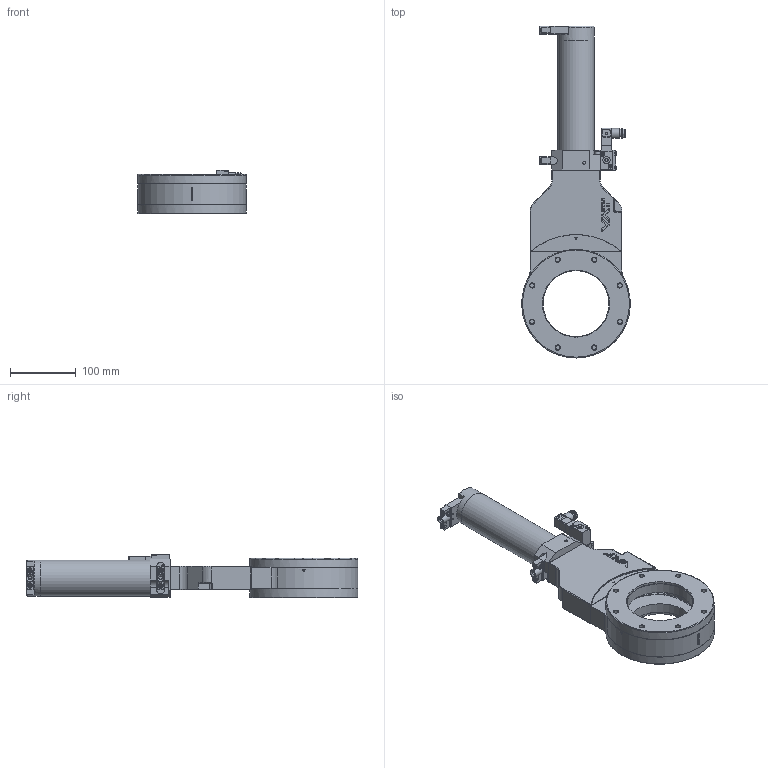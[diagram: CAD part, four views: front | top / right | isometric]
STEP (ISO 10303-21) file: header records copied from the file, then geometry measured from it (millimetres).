
FILE_DESCRIPTION( ( 'Unknown' ), '1' );
FILE_NAME( 'X:/Daten ( aktueller Bestand )/Projekte und Zeichnungen/Solid Edge/STP-Dateien/Schieberventile ISO-F/814444.stp', 'Unknown', ( 'Unknown' ), ( 'Unknown' ), 'PSStep 14.0', 'Unknown', ' ' );
FILE_SCHEMA( ( 'AUTOMOTIVE_DESIGN { 1 0 10303 214 1 1 1 1 }' ) );
Length unit declared in the file: millimetre
Products named in the file (49): N-8406-013_1_1.4_NX-ARRAGMNTZUSAMMENST1_4; N-8406-013_2.1_4; 202839_1.2_4; N-8406-013_3.2_4; N-7557-016_3.1_MODELNX-ARRAGMNTArrangement 1_4; 437235_4; 467882_4; 78856-R1.3_4; N-6099-417.1_4; N-6121-039.1_4; 73662-01.1_4; 87090-R1.22_NX-ARRAGMNTbetaetigt Hub 5mm max (mit Feder)_4; 87105-01.1_4; 93115-01.1_4; N-6195-007.2_5; 80478-01.1_4; N-7100-005_2.1_5; 80477-01.1_4; 92838-01_3.2_4; 251092.4_4; 251093.3_4; N-6121-027.2_4; 87090-R1.22_NX-ARRAGMNTunbetaetigt Hub 0mm (mit Feder)_1; 92838-01_4.2_1; 78855-R1.9_NX-ARRAGMNTEXPLOSION_1; N-6016-478.2_4; T-9001-055.1_4; 77379-01.1_4; 94800-r1.7_NX-ARRAGMNTKONFIG1_4; N-5018-005.1_4; N-6024-524.1_4; N-7557-016_2.1_4; N-7557-018.1_4; N-7557-016_1.1_4; Assem1; N-6005-466.1_1; N-6005-459.1_1; N-6005-452.1_1; N-5100-113.1_1; 224795.1_4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
Assembly tree (70 placements, depth 5):
  Assem1
    N-6005-466.1_1  x2
    N-6005-459.1_1
    N-6005-452.1_1
    N-5100-113.1_1  x2
    224795.1_4  x2
    N-5100-153.1_1
    245959.8_1
    246014.7_1
    80829-01.1_1
    236270.2_1
    N-6005-478.1_1
    313018.1_4  x2
    251289.1_4
    n-6134-407_4  x2
    251092.4_4
      251093.3_4
      N-6121-027.2_4  x2
    87090-R1.22_NX-ARRAGMNTunbetaetigt Hub 0mm (mit Feder)_1
      87105-01.1_4
      93115-01.1_4
      N-6195-007.2_5
      80478-01.1_4
      92838-01_4.2_1
      N-7100-005_2.1_5
      80477-01.1_4
    87090-R1.22_NX-ARRAGMNTbetaetigt Hub 5mm max (mit Feder)_4
      87105-01.1_4
      93115-01.1_4
      N-6195-007.2_5
      80478-01.1_4
      N-7100-005_2.1_5
      80477-01.1_4
      92838-01_3.2_4
    78855-R1.9_NX-ARRAGMNTEXPLOSION_1  x2
      N-6016-478.2_4
      T-9001-055.1_4
      77379-01.1_4
      78856-R1.3_4
        N-6099-417.1_4  x2
        N-6121-039.1_4
        202839_1.2_4
        73662-01.1_4
        N-8406-013_1_1.4_NX-ARRAGMNTZUSAMMENST1_4
          N-8406-013_2.1_4
          202839_1.2_4
          N-8406-013_3.2_4
    94800-r1.7_NX-ARRAGMNTKONFIG1_4
      N-5018-005.1_4  x2
      N-6024-524.1_4  x6
      N-7557-016_2.1_4
      N-7557-018.1_4
      N-7557-016_1.1_4
      N-7557-016_3.1_MODELNX-ARRAGMNTArrangement 1_4
        437235_4
        467882_4
Bounding box: 165.6 x 505.7 x 66.3 mm (x, y, z)
Volume: 1244228.6 mm3; surface area: 320488.3 mm2
Topology: 73 solids, 73 shells, 2336 faces, 5754 edges, 3687 vertices
Faces by surface type: plane 1345, cylinder 588, torus 130, cone 129, extrusion 77, sphere 33, bspline 32, revolution 2
Full cylindrical faces by diameter (mm): 1.4 x4, 1.5 x4, 1.875 x2, 2 x5, 2.115 x8, 2.3 x2, 2.475 x6, 2.5 x8, 2.56 x2, 2.575 x2, 2.8 x1, 3 x15, 3.2 x2, 3.3 x2, 3.4 x4, 3.5 x13, 4 x2, 4.16 x1, 4.2 x15, 4.22 x1, 4.3 x2, 4.7 x4, 5 x11, 5.1 x3, 5.3 x2, 5.5 x7, 5.6 x2, 5.65 x2, 5.7 x2, 5.8 x4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
Entity records: 71697 total; most frequent: CARTESIAN_POINT 16465, DIRECTION 8354, ORIENTED_EDGE 7896, EDGE_CURVE 3948, AXIS2_PLACEMENT_3D 2919, VERTEX_POINT 2703, VECTOR 2515, LINE 2438
